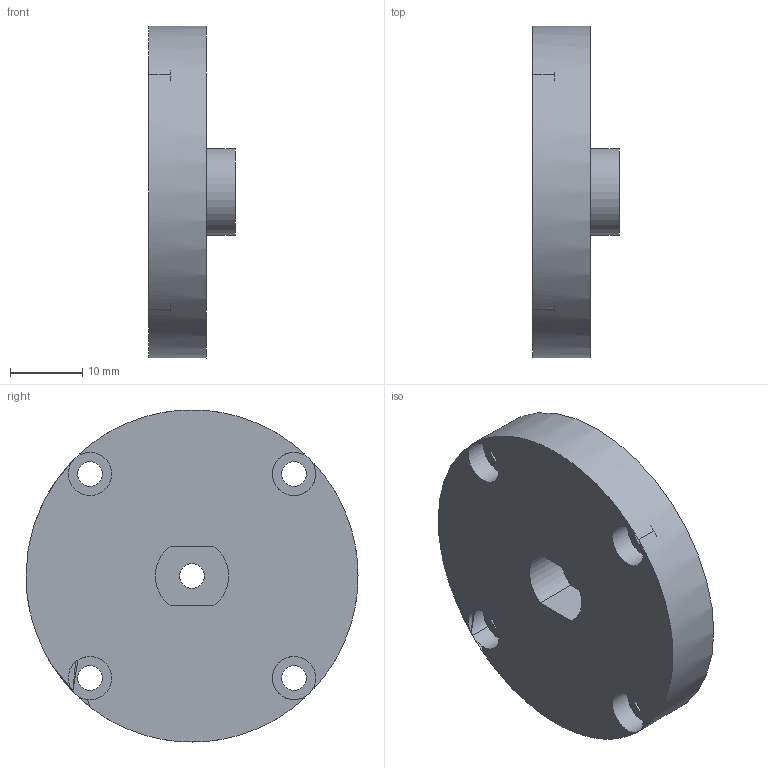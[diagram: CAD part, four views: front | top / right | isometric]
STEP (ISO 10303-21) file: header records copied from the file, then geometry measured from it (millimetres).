
FILE_DESCRIPTION(('Open CASCADE Model'),'2;1');
FILE_NAME('Open CASCADE Shape Model','2026-11-03T01:23:16',('Author'),( 'Open CASCADE'),'Open CASCADE STEP processor 7.9','Open CASCADE 7.9' ,'Unknown');
FILE_SCHEMA(('AUTOMOTIVE_DESIGN { 1 0 10303 214 1 1 1 1 }'));
Length unit declared in the file: millimetre
Products named in the file (1): Open CASCADE STEP translator 7.9 4
Bounding box: 12 x 46 x 46 mm (x, y, z)
Volume: 12651.5 mm3; surface area: 5269 mm2
Topology: 1 solids, 1 shells, 34 faces, 79 edges, 51 vertices
Faces by surface type: cylinder 17, plane 17
Full cylindrical faces by diameter (mm): 3.4 x5, 12 x1, 46 x1
Entity records: 2032 total; most frequent: CARTESIAN_POINT 398, DIRECTION 303, ORIENTED_EDGE 158, PCURVE 158, DEFINITIONAL_REPRESENTATION 158, LINE 125, VECTOR 125, EDGE_CURVE 79
